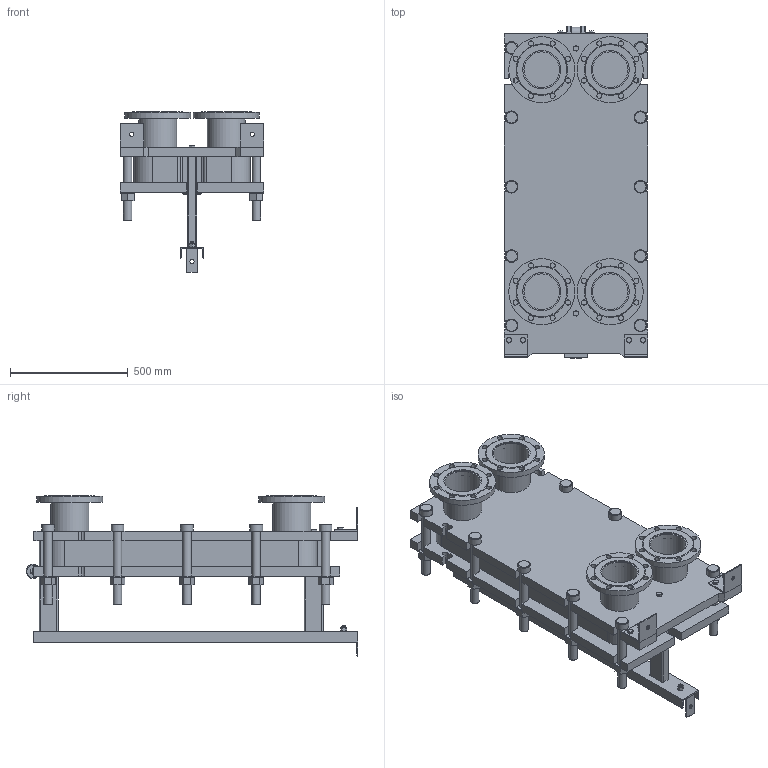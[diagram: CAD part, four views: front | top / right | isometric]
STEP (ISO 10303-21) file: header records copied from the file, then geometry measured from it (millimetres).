
FILE_DESCRIPTION(/* description */ (''),/* implementation_level */ '2;1');
FILE_NAME(/* name */ 'C:\Users\zhuro\Desktop\ENCO\TO\ЭН-041\ЭН-0,5-041-32-1.stp',/* time_stamp */ '2022-06-06T10:50:59+03:00',/* author */ ('zhuro'),/* organization */ (''),/* preprocessor_version */ 'ST-DEVELOPER v18.1',/* originating_system */ 'Autodesk Inventor 2022',/* authorisation */ '');
FILE_SCHEMA (('AUTOMOTIVE_DESIGN { 1 0 10303 214 3 1 1 }'));
Length unit declared in the file: millimetre
Products named in the file (1): ЭН-0,5-041-32-1
Bounding box: 610 x 1406.5 x 680 mm (x, y, z)
Volume: 137787693.5 mm3; surface area: 7525166.9 mm2
Topology: 52 solids, 52 shells, 711 faces, 1696 edges, 1094 vertices
Faces by surface type: plane 487, cylinder 177, cone 41, torus 6
Full cylindrical faces by diameter (mm): 8 x4, 10 x2, 16 x8, 18 x3, 22 x32, 36 x24, 50 x1, 54 x10, 60 x12, 151 x4, 161 x8, 280 x4
Entity records: 22667 total; most frequent: CARTESIAN_POINT 5230, DIRECTION 3644, ORIENTED_EDGE 3392, EDGE_CURVE 1696, AXIS2_PLACEMENT_3D 1272, LINE 1100, VECTOR 1100, VERTEX_POINT 1094
